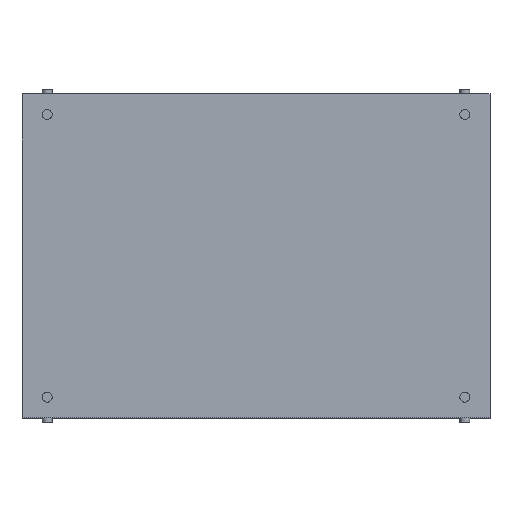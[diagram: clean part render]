
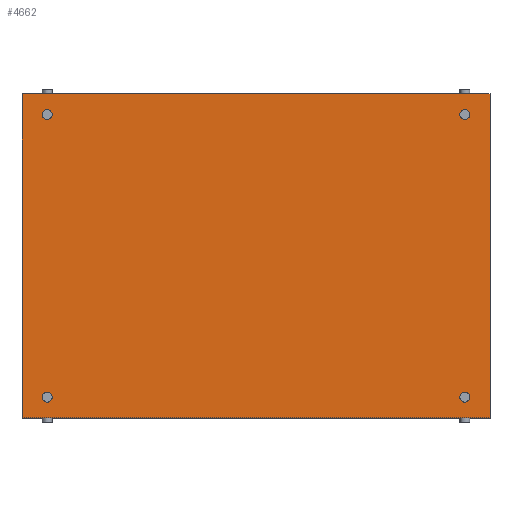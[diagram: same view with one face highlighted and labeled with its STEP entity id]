
A CAD part, top view. The second image highlights one B-rep face of the part: STEP entity #4662.
In plain terms, the highlighted planar face has unit normal (0, 0, 1).
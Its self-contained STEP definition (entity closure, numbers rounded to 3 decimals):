
#4473 = VERTEX_POINT('',#4474);
#4474 = CARTESIAN_POINT('',(-130.,-90.,90.));
#4481 = PLANE('',#4482);
#4482 = AXIS2_PLACEMENT_3D('',#4483,#4484,#4485);
#4483 = CARTESIAN_POINT('',(-130.,-90.,88.5));
#4484 = DIRECTION('',(1.,0.,0.));
#4485 = DIRECTION('',(0.,0.,1.));
#4493 = PLANE('',#4494);
#4494 = AXIS2_PLACEMENT_3D('',#4495,#4496,#4497);
#4495 = CARTESIAN_POINT('',(-130.,-90.,88.5));
#4496 = DIRECTION('',(0.,1.,0.));
#4497 = DIRECTION('',(0.,0.,1.));
#4534 = VERTEX_POINT('',#4535);
#4535 = CARTESIAN_POINT('',(-130.,90.,90.));
#4549 = PLANE('',#4550);
#4550 = AXIS2_PLACEMENT_3D('',#4551,#4552,#4553);
#4551 = CARTESIAN_POINT('',(-130.,90.,88.5));
#4552 = DIRECTION('',(0.,1.,0.));
#4553 = DIRECTION('',(0.,0.,1.));
#4561 = EDGE_CURVE('',#4473,#4534,#4562,.T.);
#4562 = SURFACE_CURVE('',#4563,(#4567,#4574),.PCURVE_S1.);
#4563 = LINE('',#4564,#4565);
#4564 = CARTESIAN_POINT('',(-130.,-90.,90.));
#4565 = VECTOR('',#4566,1.);
#4566 = DIRECTION('',(0.,1.,0.));
#4567 = PCURVE('',#4481,#4568);
#4568 = DEFINITIONAL_REPRESENTATION('',(#4569),#4573);
#4569 = LINE('',#4570,#4571);
#4570 = CARTESIAN_POINT('',(1.5,0.));
#4571 = VECTOR('',#4572,1.);
#4572 = DIRECTION('',(0.,-1.));
#4573 = ( GEOMETRIC_REPRESENTATION_CONTEXT(2) 
PARAMETRIC_REPRESENTATION_CONTEXT() REPRESENTATION_CONTEXT('2D SPACE',''
  ) );
#4574 = PCURVE('',#4575,#4580);
#4575 = PLANE('',#4576);
#4576 = AXIS2_PLACEMENT_3D('',#4577,#4578,#4579);
#4577 = CARTESIAN_POINT('',(-130.,-90.,90.));
#4578 = DIRECTION('',(0.,0.,1.));
#4579 = DIRECTION('',(1.,0.,0.));
#4580 = DEFINITIONAL_REPRESENTATION('',(#4581),#4585);
#4581 = LINE('',#4582,#4583);
#4582 = CARTESIAN_POINT('',(0.,0.));
#4583 = VECTOR('',#4584,1.);
#4584 = DIRECTION('',(0.,1.));
#4585 = ( GEOMETRIC_REPRESENTATION_CONTEXT(2) 
PARAMETRIC_REPRESENTATION_CONTEXT() REPRESENTATION_CONTEXT('2D SPACE',''
  ) );
#4614 = EDGE_CURVE('',#4473,#4615,#4617,.T.);
#4615 = VERTEX_POINT('',#4616);
#4616 = CARTESIAN_POINT('',(130.,-90.,90.));
#4617 = SURFACE_CURVE('',#4618,(#4622,#4629),.PCURVE_S1.);
#4618 = LINE('',#4619,#4620);
#4619 = CARTESIAN_POINT('',(-130.,-90.,90.));
#4620 = VECTOR('',#4621,1.);
#4621 = DIRECTION('',(1.,0.,0.));
#4622 = PCURVE('',#4493,#4623);
#4623 = DEFINITIONAL_REPRESENTATION('',(#4624),#4628);
#4624 = LINE('',#4625,#4626);
#4625 = CARTESIAN_POINT('',(1.5,0.));
#4626 = VECTOR('',#4627,1.);
#4627 = DIRECTION('',(0.,1.));
#4628 = ( GEOMETRIC_REPRESENTATION_CONTEXT(2) 
PARAMETRIC_REPRESENTATION_CONTEXT() REPRESENTATION_CONTEXT('2D SPACE',''
  ) );
#4629 = PCURVE('',#4575,#4630);
#4630 = DEFINITIONAL_REPRESENTATION('',(#4631),#4635);
#4631 = LINE('',#4632,#4633);
#4632 = CARTESIAN_POINT('',(0.,0.));
#4633 = VECTOR('',#4634,1.);
#4634 = DIRECTION('',(1.,0.));
#4635 = ( GEOMETRIC_REPRESENTATION_CONTEXT(2) 
PARAMETRIC_REPRESENTATION_CONTEXT() REPRESENTATION_CONTEXT('2D SPACE',''
  ) );
#4651 = PLANE('',#4652);
#4652 = AXIS2_PLACEMENT_3D('',#4653,#4654,#4655);
#4653 = CARTESIAN_POINT('',(130.,-90.,88.5));
#4654 = DIRECTION('',(1.,0.,0.));
#4655 = DIRECTION('',(0.,0.,1.));
#4662 = ADVANCED_FACE('',(#4663,#4711,#4742,#4773,#4804),#4575,.T.);
#4663 = FACE_BOUND('',#4664,.T.);
#4664 = EDGE_LOOP('',(#4665,#4666,#4667,#4690));
#4665 = ORIENTED_EDGE('',*,*,#4561,.F.);
#4666 = ORIENTED_EDGE('',*,*,#4614,.T.);
#4667 = ORIENTED_EDGE('',*,*,#4668,.T.);
#4668 = EDGE_CURVE('',#4615,#4669,#4671,.T.);
#4669 = VERTEX_POINT('',#4670);
#4670 = CARTESIAN_POINT('',(130.,90.,90.));
#4671 = SURFACE_CURVE('',#4672,(#4676,#4683),.PCURVE_S1.);
#4672 = LINE('',#4673,#4674);
#4673 = CARTESIAN_POINT('',(130.,-90.,90.));
#4674 = VECTOR('',#4675,1.);
#4675 = DIRECTION('',(0.,1.,0.));
#4676 = PCURVE('',#4575,#4677);
#4677 = DEFINITIONAL_REPRESENTATION('',(#4678),#4682);
#4678 = LINE('',#4679,#4680);
#4679 = CARTESIAN_POINT('',(260.,0.));
#4680 = VECTOR('',#4681,1.);
#4681 = DIRECTION('',(0.,1.));
#4682 = ( GEOMETRIC_REPRESENTATION_CONTEXT(2) 
PARAMETRIC_REPRESENTATION_CONTEXT() REPRESENTATION_CONTEXT('2D SPACE',''
  ) );
#4683 = PCURVE('',#4651,#4684);
#4684 = DEFINITIONAL_REPRESENTATION('',(#4685),#4689);
#4685 = LINE('',#4686,#4687);
#4686 = CARTESIAN_POINT('',(1.5,0.));
#4687 = VECTOR('',#4688,1.);
#4688 = DIRECTION('',(0.,-1.));
#4689 = ( GEOMETRIC_REPRESENTATION_CONTEXT(2) 
PARAMETRIC_REPRESENTATION_CONTEXT() REPRESENTATION_CONTEXT('2D SPACE',''
  ) );
#4690 = ORIENTED_EDGE('',*,*,#4691,.F.);
#4691 = EDGE_CURVE('',#4534,#4669,#4692,.T.);
#4692 = SURFACE_CURVE('',#4693,(#4697,#4704),.PCURVE_S1.);
#4693 = LINE('',#4694,#4695);
#4694 = CARTESIAN_POINT('',(-130.,90.,90.));
#4695 = VECTOR('',#4696,1.);
#4696 = DIRECTION('',(1.,0.,0.));
#4697 = PCURVE('',#4575,#4698);
#4698 = DEFINITIONAL_REPRESENTATION('',(#4699),#4703);
#4699 = LINE('',#4700,#4701);
#4700 = CARTESIAN_POINT('',(0.,180.));
#4701 = VECTOR('',#4702,1.);
#4702 = DIRECTION('',(1.,0.));
#4703 = ( GEOMETRIC_REPRESENTATION_CONTEXT(2) 
PARAMETRIC_REPRESENTATION_CONTEXT() REPRESENTATION_CONTEXT('2D SPACE',''
  ) );
#4704 = PCURVE('',#4549,#4705);
#4705 = DEFINITIONAL_REPRESENTATION('',(#4706),#4710);
#4706 = LINE('',#4707,#4708);
#4707 = CARTESIAN_POINT('',(1.5,0.));
#4708 = VECTOR('',#4709,1.);
#4709 = DIRECTION('',(0.,1.));
#4710 = ( GEOMETRIC_REPRESENTATION_CONTEXT(2) 
PARAMETRIC_REPRESENTATION_CONTEXT() REPRESENTATION_CONTEXT('2D SPACE',''
  ) );
#4711 = FACE_BOUND('',#4712,.T.);
#4712 = EDGE_LOOP('',(#4713));
#4713 = ORIENTED_EDGE('',*,*,#4714,.F.);
#4714 = EDGE_CURVE('',#4715,#4715,#4717,.T.);
#4715 = VERTEX_POINT('',#4716);
#4716 = CARTESIAN_POINT('',(-114.3,-78.5,90.));
#4717 = SURFACE_CURVE('',#4718,(#4723,#4730),.PCURVE_S1.);
#4718 = CIRCLE('',#4719,1.7);
#4719 = AXIS2_PLACEMENT_3D('',#4720,#4721,#4722);
#4720 = CARTESIAN_POINT('',(-116.,-78.5,90.));
#4721 = DIRECTION('',(0.,0.,1.));
#4722 = DIRECTION('',(1.,0.,-0.));
#4723 = PCURVE('',#4575,#4724);
#4724 = DEFINITIONAL_REPRESENTATION('',(#4725),#4729);
#4725 = CIRCLE('',#4726,1.7);
#4726 = AXIS2_PLACEMENT_2D('',#4727,#4728);
#4727 = CARTESIAN_POINT('',(14.,11.5));
#4728 = DIRECTION('',(1.,0.));
#4729 = ( GEOMETRIC_REPRESENTATION_CONTEXT(2) 
PARAMETRIC_REPRESENTATION_CONTEXT() REPRESENTATION_CONTEXT('2D SPACE',''
  ) );
#4730 = PCURVE('',#4731,#4736);
#4731 = CYLINDRICAL_SURFACE('',#4732,1.7);
#4732 = AXIS2_PLACEMENT_3D('',#4733,#4734,#4735);
#4733 = CARTESIAN_POINT('',(-116.,-78.5,87.5));
#4734 = DIRECTION('',(0.,0.,1.));
#4735 = DIRECTION('',(1.,0.,-0.));
#4736 = DEFINITIONAL_REPRESENTATION('',(#4737),#4741);
#4737 = LINE('',#4738,#4739);
#4738 = CARTESIAN_POINT('',(0.,2.5));
#4739 = VECTOR('',#4740,1.);
#4740 = DIRECTION('',(1.,0.));
#4741 = ( GEOMETRIC_REPRESENTATION_CONTEXT(2) 
PARAMETRIC_REPRESENTATION_CONTEXT() REPRESENTATION_CONTEXT('2D SPACE',''
  ) );
#4742 = FACE_BOUND('',#4743,.T.);
#4743 = EDGE_LOOP('',(#4744));
#4744 = ORIENTED_EDGE('',*,*,#4745,.F.);
#4745 = EDGE_CURVE('',#4746,#4746,#4748,.T.);
#4746 = VERTEX_POINT('',#4747);
#4747 = CARTESIAN_POINT('',(117.7,-78.5,90.));
#4748 = SURFACE_CURVE('',#4749,(#4754,#4761),.PCURVE_S1.);
#4749 = CIRCLE('',#4750,1.7);
#4750 = AXIS2_PLACEMENT_3D('',#4751,#4752,#4753);
#4751 = CARTESIAN_POINT('',(116.,-78.5,90.));
#4752 = DIRECTION('',(0.,0.,1.));
#4753 = DIRECTION('',(1.,0.,-0.));
#4754 = PCURVE('',#4575,#4755);
#4755 = DEFINITIONAL_REPRESENTATION('',(#4756),#4760);
#4756 = CIRCLE('',#4757,1.7);
#4757 = AXIS2_PLACEMENT_2D('',#4758,#4759);
#4758 = CARTESIAN_POINT('',(246.,11.5));
#4759 = DIRECTION('',(1.,0.));
#4760 = ( GEOMETRIC_REPRESENTATION_CONTEXT(2) 
PARAMETRIC_REPRESENTATION_CONTEXT() REPRESENTATION_CONTEXT('2D SPACE',''
  ) );
#4761 = PCURVE('',#4762,#4767);
#4762 = CYLINDRICAL_SURFACE('',#4763,1.7);
#4763 = AXIS2_PLACEMENT_3D('',#4764,#4765,#4766);
#4764 = CARTESIAN_POINT('',(116.,-78.5,87.5));
#4765 = DIRECTION('',(0.,0.,1.));
#4766 = DIRECTION('',(1.,0.,-0.));
#4767 = DEFINITIONAL_REPRESENTATION('',(#4768),#4772);
#4768 = LINE('',#4769,#4770);
#4769 = CARTESIAN_POINT('',(0.,2.5));
#4770 = VECTOR('',#4771,1.);
#4771 = DIRECTION('',(1.,0.));
#4772 = ( GEOMETRIC_REPRESENTATION_CONTEXT(2) 
PARAMETRIC_REPRESENTATION_CONTEXT() REPRESENTATION_CONTEXT('2D SPACE',''
  ) );
#4773 = FACE_BOUND('',#4774,.T.);
#4774 = EDGE_LOOP('',(#4775));
#4775 = ORIENTED_EDGE('',*,*,#4776,.F.);
#4776 = EDGE_CURVE('',#4777,#4777,#4779,.T.);
#4777 = VERTEX_POINT('',#4778);
#4778 = CARTESIAN_POINT('',(-114.3,78.5,90.));
#4779 = SURFACE_CURVE('',#4780,(#4785,#4792),.PCURVE_S1.);
#4780 = CIRCLE('',#4781,1.7);
#4781 = AXIS2_PLACEMENT_3D('',#4782,#4783,#4784);
#4782 = CARTESIAN_POINT('',(-116.,78.5,90.));
#4783 = DIRECTION('',(0.,0.,1.));
#4784 = DIRECTION('',(1.,0.,-0.));
#4785 = PCURVE('',#4575,#4786);
#4786 = DEFINITIONAL_REPRESENTATION('',(#4787),#4791);
#4787 = CIRCLE('',#4788,1.7);
#4788 = AXIS2_PLACEMENT_2D('',#4789,#4790);
#4789 = CARTESIAN_POINT('',(14.,168.5));
#4790 = DIRECTION('',(1.,0.));
#4791 = ( GEOMETRIC_REPRESENTATION_CONTEXT(2) 
PARAMETRIC_REPRESENTATION_CONTEXT() REPRESENTATION_CONTEXT('2D SPACE',''
  ) );
#4792 = PCURVE('',#4793,#4798);
#4793 = CYLINDRICAL_SURFACE('',#4794,1.7);
#4794 = AXIS2_PLACEMENT_3D('',#4795,#4796,#4797);
#4795 = CARTESIAN_POINT('',(-116.,78.5,87.5));
#4796 = DIRECTION('',(0.,0.,1.));
#4797 = DIRECTION('',(1.,0.,-0.));
#4798 = DEFINITIONAL_REPRESENTATION('',(#4799),#4803);
#4799 = LINE('',#4800,#4801);
#4800 = CARTESIAN_POINT('',(0.,2.5));
#4801 = VECTOR('',#4802,1.);
#4802 = DIRECTION('',(1.,0.));
#4803 = ( GEOMETRIC_REPRESENTATION_CONTEXT(2) 
PARAMETRIC_REPRESENTATION_CONTEXT() REPRESENTATION_CONTEXT('2D SPACE',''
  ) );
#4804 = FACE_BOUND('',#4805,.T.);
#4805 = EDGE_LOOP('',(#4806));
#4806 = ORIENTED_EDGE('',*,*,#4807,.F.);
#4807 = EDGE_CURVE('',#4808,#4808,#4810,.T.);
#4808 = VERTEX_POINT('',#4809);
#4809 = CARTESIAN_POINT('',(117.7,78.5,90.));
#4810 = SURFACE_CURVE('',#4811,(#4816,#4823),.PCURVE_S1.);
#4811 = CIRCLE('',#4812,1.7);
#4812 = AXIS2_PLACEMENT_3D('',#4813,#4814,#4815);
#4813 = CARTESIAN_POINT('',(116.,78.5,90.));
#4814 = DIRECTION('',(0.,0.,1.));
#4815 = DIRECTION('',(1.,0.,-0.));
#4816 = PCURVE('',#4575,#4817);
#4817 = DEFINITIONAL_REPRESENTATION('',(#4818),#4822);
#4818 = CIRCLE('',#4819,1.7);
#4819 = AXIS2_PLACEMENT_2D('',#4820,#4821);
#4820 = CARTESIAN_POINT('',(246.,168.5));
#4821 = DIRECTION('',(1.,0.));
#4822 = ( GEOMETRIC_REPRESENTATION_CONTEXT(2) 
PARAMETRIC_REPRESENTATION_CONTEXT() REPRESENTATION_CONTEXT('2D SPACE',''
  ) );
#4823 = PCURVE('',#4824,#4829);
#4824 = CYLINDRICAL_SURFACE('',#4825,1.7);
#4825 = AXIS2_PLACEMENT_3D('',#4826,#4827,#4828);
#4826 = CARTESIAN_POINT('',(116.,78.5,87.5));
#4827 = DIRECTION('',(0.,0.,1.));
#4828 = DIRECTION('',(1.,0.,-0.));
#4829 = DEFINITIONAL_REPRESENTATION('',(#4830),#4834);
#4830 = LINE('',#4831,#4832);
#4831 = CARTESIAN_POINT('',(0.,2.5));
#4832 = VECTOR('',#4833,1.);
#4833 = DIRECTION('',(1.,0.));
#4834 = ( GEOMETRIC_REPRESENTATION_CONTEXT(2) 
PARAMETRIC_REPRESENTATION_CONTEXT() REPRESENTATION_CONTEXT('2D SPACE',''
  ) );
